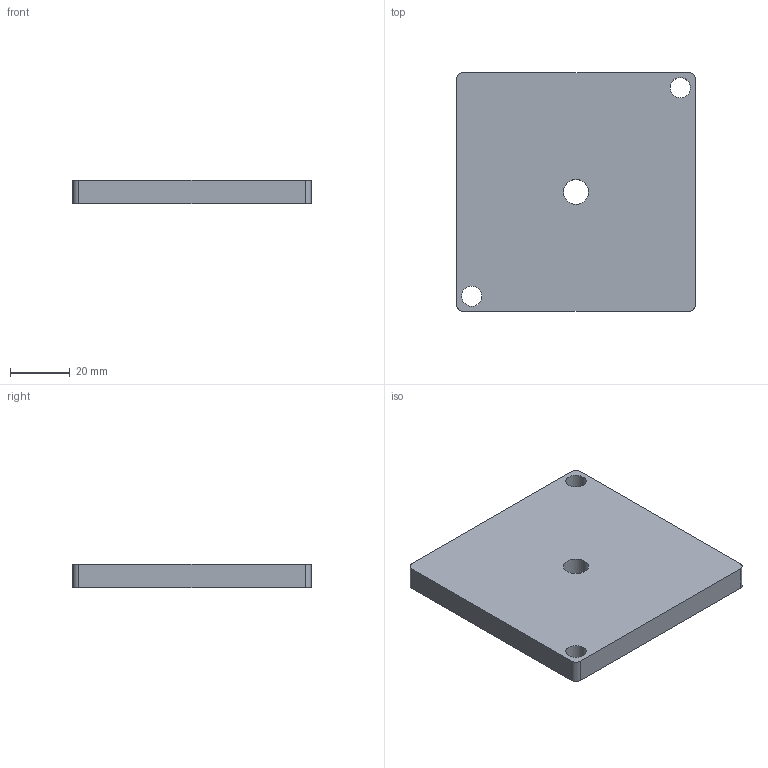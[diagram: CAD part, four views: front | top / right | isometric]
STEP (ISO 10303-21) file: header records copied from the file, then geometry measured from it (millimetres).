
FILE_DESCRIPTION(/* description */ ('ENDPLATE FOR FOOT M10, PROFILE 80x80'),/* implementation_level */ '2;1');
FILE_NAME(/* name */ '\\carryline.intra\privat\users\mathias\Desktop\Tillfälliga filer\100-1172.stp',/* time_stamp */ '2018-11-19T11:12:55+01:00',/* author */ ('ML'),/* organization */ ('CARRYLINE'),/* preprocessor_version */ 'ST-DEVELOPER v17',/* originating_system */ 'Autodesk Inventor 2018',/* authorisation */ '');
FILE_SCHEMA (('AUTOMOTIVE_DESIGN { 1 0 10303 214 3 1 1 }'));
Length unit declared in the file: millimetre
Products named in the file (1): 100-1172
Bounding box: 80 x 80 x 8 mm (x, y, z)
Volume: 50150.7 mm3; surface area: 15622.5 mm2
Topology: 1 solids, 1 shells, 13 faces, 36 edges, 25 vertices
Faces by surface type: cylinder 7, plane 6
Full cylindrical faces by diameter (mm): 6.8 x2, 8.376 x1
Entity records: 482 total; most frequent: DIRECTION 81, CARTESIAN_POINT 75, ORIENTED_EDGE 72, EDGE_CURVE 36, AXIS2_PLACEMENT_3D 31, VERTEX_POINT 25, EDGE_LOOP 19, LINE 19
